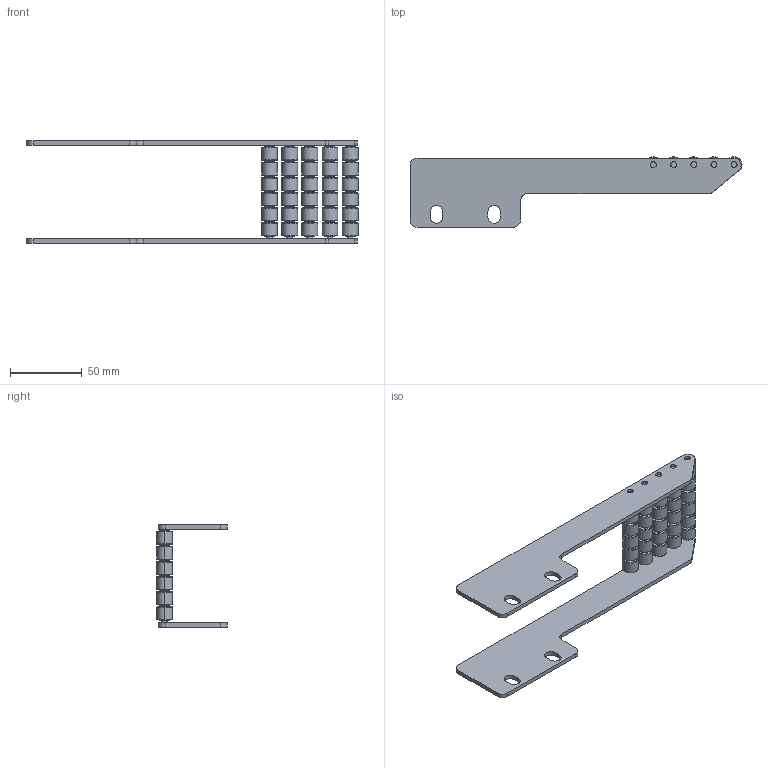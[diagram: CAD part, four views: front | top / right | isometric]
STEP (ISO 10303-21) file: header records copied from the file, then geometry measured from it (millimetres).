
FILE_DESCRIPTION (( 'STEP AP214' ), '1' );
FILE_NAME ('FSTB 200.step', '2017-04-07T11:09:57', ( '' ), ( '' ), 'SwSTEP 2.0', 'SolidWorks 2016', '' );
FILE_SCHEMA (( 'AUTOMOTIVE_DESIGN' ));
Length unit declared in the file: millimetre
Products named in the file (1): FSTB 200
Bounding box: 230.6 x 49 x 71 mm (x, y, z)
Volume: 69209.9 mm3; surface area: 54617 mm2
Topology: 37 solids, 37 shells, 804 faces, 1950 edges, 1280 vertices
Faces by surface type: torus 360, cylinder 290, plane 154
Entity records: 36664 total; most frequent: CARTESIAN_POINT 8535, DIRECTION 4800, ORIENTED_EDGE 3900, AXIS2_PLACEMENT_3D 2225, EDGE_CURVE 1950, CIRCLE 1420, VERTEX_POINT 1280, EDGE_LOOP 952
